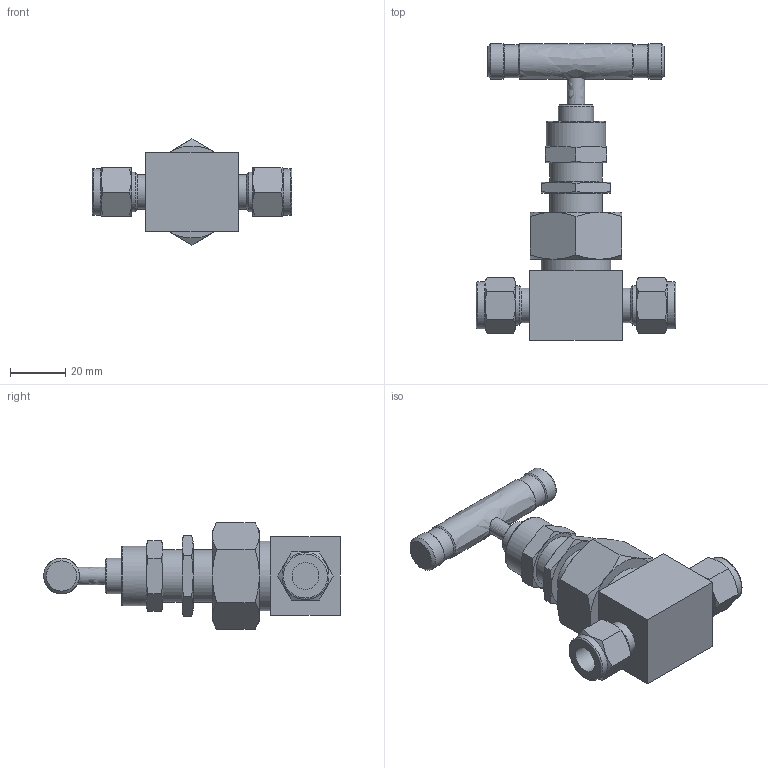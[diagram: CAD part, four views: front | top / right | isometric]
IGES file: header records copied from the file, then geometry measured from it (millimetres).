
Global section: file name: SUNV2-S6-S316; native system: Autodesk Inventor 2016; preprocessor: unknown; author: 이승민,,11,0; organization: 20161215.102846; date: 20161216.192808; units: millimetre
Bounding box: 72.36 x 107.76 x 38.51 mm (x, y, z)
Volume: 69387.2 mm3; surface area: 21836.9 mm2
Topology: 2 solids, 2 shells, 143 faces, 359 edges, 239 vertices
Faces by surface type: bspline 143
